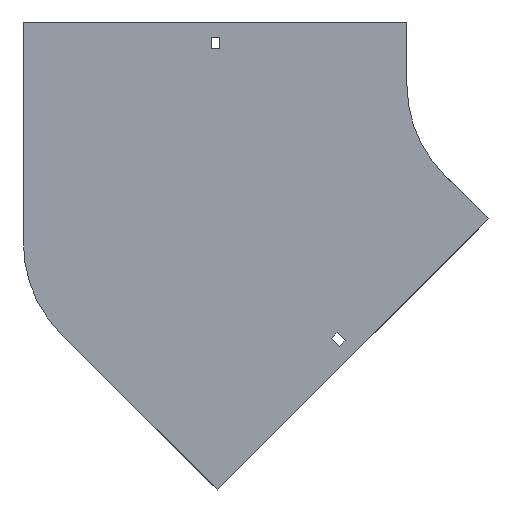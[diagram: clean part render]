
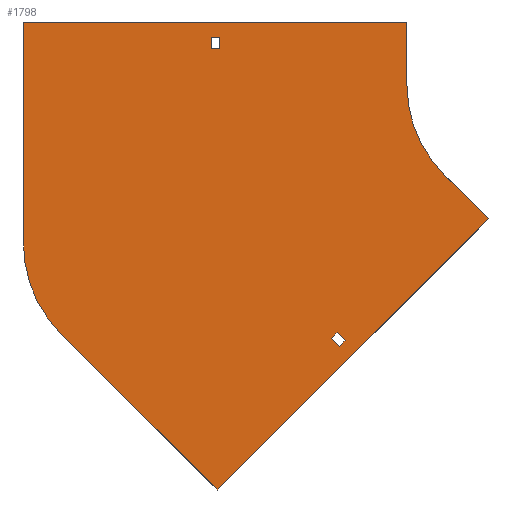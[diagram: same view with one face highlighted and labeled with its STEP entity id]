
A CAD part, front view. The second image highlights one B-rep face of the part: STEP entity #1798.
In plain terms, the highlighted planar face has unit normal (0, -1, 0).
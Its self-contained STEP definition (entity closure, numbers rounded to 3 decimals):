
#3 = CARTESIAN_POINT ( 'NONE',  ( -250.316, 0., -321.026 ) ) ;
#6 = ORIENTED_EDGE ( 'NONE', *, *, #439, .F. ) ;
#78 = AXIS2_PLACEMENT_3D ( 'NONE', #1677, #498, #1406 ) ;
#89 = CARTESIAN_POINT ( 'NONE',  ( 0., 0., 0. ) ) ;
#90 = CARTESIAN_POINT ( 'NONE',  ( -250.316, 0., -321.026 ) ) ;
#99 = DIRECTION ( 'NONE',  ( 0., 0., -1. ) ) ;
#121 = EDGE_CURVE ( 'NONE', #588, #1345, #339, .T. ) ;
#132 = DIRECTION ( 'NONE',  ( 1., 0., 0. ) ) ;
#136 = CIRCLE ( 'NONE', #78, 100. ) ;
#143 = VERTEX_POINT ( 'NONE', #1110 ) ;
#149 = DIRECTION ( 'NONE',  ( -0.707, 0., 0.707 ) ) ;
#151 = CARTESIAN_POINT ( 'NONE',  ( -100., 0., 0. ) ) ;
#153 = EDGE_CURVE ( 'NONE', #143, #409, #1403, .T. ) ;
#172 = CARTESIAN_POINT ( 'NONE',  ( -100., 0., 50. ) ) ;
#213 = ORIENTED_EDGE ( 'NONE', *, *, #367, .T. ) ;
#250 = ORIENTED_EDGE ( 'NONE', *, *, #1177, .F. ) ;
#275 = CARTESIAN_POINT ( 'NONE',  ( -248.75, 0., 29. ) ) ;
#287 = LINE ( 'NONE', #895, #680 ) ;
#288 = ORIENTED_EDGE ( 'NONE', *, *, #1626, .T. ) ;
#297 = CARTESIAN_POINT ( 'NONE',  ( -159.983, 0., -200.995 ) ) ;
#301 = EDGE_CURVE ( 'NONE', #1877, #1607, #1140, .T. ) ;
#316 = ORIENTED_EDGE ( 'NONE', *, *, #392, .F. ) ;
#339 = LINE ( 'NONE', #172, #920 ) ;
#344 = CARTESIAN_POINT ( 'NONE',  ( -255.25, 0., 29. ) ) ;
#363 = VECTOR ( 'NONE', #749, 1000. ) ;
#367 = EDGE_CURVE ( 'NONE', #404, #823, #874, .T. ) ;
#369 = DIRECTION ( 'NONE',  ( 0.707, 0., -0.707 ) ) ;
#372 = ORIENTED_EDGE ( 'NONE', *, *, #1546, .F. ) ;
#374 = CARTESIAN_POINT ( 'NONE',  ( 0., 0., 0. ) ) ;
#392 = EDGE_CURVE ( 'NONE', #1607, #588, #884, .T. ) ;
#404 = VERTEX_POINT ( 'NONE', #1933 ) ;
#409 = VERTEX_POINT ( 'NONE', #577 ) ;
#428 = CARTESIAN_POINT ( 'NONE',  ( -374.711, 0., -196.632 ) ) ;
#439 = EDGE_CURVE ( 'NONE', #1299, #1390, #1504, .T. ) ;
#454 = DIRECTION ( 'NONE',  ( 0., 0., -1. ) ) ;
#489 = VECTOR ( 'NONE', #1737, 1000. ) ;
#498 = DIRECTION ( 'NONE',  ( 0., 1., 0. ) ) ;
#502 = DIRECTION ( 'NONE',  ( -1., 0., 0. ) ) ;
#519 = CARTESIAN_POINT ( 'NONE',  ( -70.711, 0., -70.711 ) ) ;
#528 = LINE ( 'NONE', #1863, #745 ) ;
#531 = CARTESIAN_POINT ( 'NONE',  ( -404., 0., -125.921 ) ) ;
#533 = FACE_OUTER_BOUND ( 'NONE', #1876, .T. ) ;
#551 = FACE_BOUND ( 'NONE', #1568, .T. ) ;
#577 = CARTESIAN_POINT ( 'NONE',  ( -155.387, 0., -196.399 ) ) ;
#588 = VERTEX_POINT ( 'NONE', #1308 ) ;
#590 = CARTESIAN_POINT ( 'NONE',  ( -70.711, 0., -70.711 ) ) ;
#629 = DIRECTION ( 'NONE',  ( 0., -1., 0. ) ) ;
#633 = VERTEX_POINT ( 'NONE', #937 ) ;
#637 = DIRECTION ( 'NONE',  ( 0., 0., -1. ) ) ;
#654 = EDGE_CURVE ( 'NONE', #1337, #143, #528, .T. ) ;
#667 = DIRECTION ( 'NONE',  ( 0., 0., -1. ) ) ;
#680 = VECTOR ( 'NONE', #1493, 1000. ) ;
#721 = CARTESIAN_POINT ( 'NONE',  ( -159.983, 0., -200.995 ) ) ;
#740 = CARTESIAN_POINT ( 'NONE',  ( -255.25, 0., 38. ) ) ;
#745 = VECTOR ( 'NONE', #1421, 1000. ) ;
#749 = DIRECTION ( 'NONE',  ( 1., 0., 0. ) ) ;
#752 = VERTEX_POINT ( 'NONE', #1016 ) ;
#795 = EDGE_CURVE ( 'NONE', #866, #1299, #1447, .T. ) ;
#823 = VERTEX_POINT ( 'NONE', #1355 ) ;
#824 = VECTOR ( 'NONE', #454, 1000. ) ;
#826 = AXIS2_PLACEMENT_3D ( 'NONE', #374, #629, #667 ) ;
#829 = ORIENTED_EDGE ( 'NONE', *, *, #1437, .T. ) ;
#857 = ORIENTED_EDGE ( 'NONE', *, *, #795, .F. ) ;
#866 = VERTEX_POINT ( 'NONE', #1365 ) ;
#874 = LINE ( 'NONE', #740, #1688 ) ;
#884 = LINE ( 'NONE', #1801, #363 ) ;
#888 = ORIENTED_EDGE ( 'NONE', *, *, #1910, .T. ) ;
#895 = CARTESIAN_POINT ( 'NONE',  ( -255.25, 0., 29. ) ) ;
#905 = ORIENTED_EDGE ( 'NONE', *, *, #121, .F. ) ;
#920 = VECTOR ( 'NONE', #637, 1000. ) ;
#924 = CIRCLE ( 'NONE', #826, 100. ) ;
#937 = CARTESIAN_POINT ( 'NONE',  ( -248.75, 0., 29. ) ) ;
#1016 = CARTESIAN_POINT ( 'NONE',  ( -255.25, 0., 29. ) ) ;
#1058 = DIRECTION ( 'NONE',  ( 0.707, 0., -0.707 ) ) ;
#1075 = CARTESIAN_POINT ( 'NONE',  ( -404., 0., -125.921 ) ) ;
#1110 = CARTESIAN_POINT ( 'NONE',  ( -149.023, 0., -202.763 ) ) ;
#1126 = VECTOR ( 'NONE', #1058, 1000. ) ;
#1129 = VERTEX_POINT ( 'NONE', #297 ) ;
#1135 = LINE ( 'NONE', #344, #1203 ) ;
#1140 = LINE ( 'NONE', #531, #489 ) ;
#1158 = DIRECTION ( 'NONE',  ( -0.707, 0., -0.707 ) ) ;
#1177 = EDGE_CURVE ( 'NONE', #1345, #1386, #924, .T. ) ;
#1194 = LINE ( 'NONE', #1816, #1126 ) ;
#1203 = VECTOR ( 'NONE', #502, 1000. ) ;
#1238 = ORIENTED_EDGE ( 'NONE', *, *, #153, .F. ) ;
#1239 = VECTOR ( 'NONE', #369, 1000. ) ;
#1240 = ORIENTED_EDGE ( 'NONE', *, *, #301, .F. ) ;
#1273 = ORIENTED_EDGE ( 'NONE', *, *, #1418, .F. ) ;
#1299 = VERTEX_POINT ( 'NONE', #90 ) ;
#1308 = CARTESIAN_POINT ( 'NONE',  ( -100., 0., 50. ) ) ;
#1329 = CARTESIAN_POINT ( 'NONE',  ( -404., 0., 50. ) ) ;
#1336 = VECTOR ( 'NONE', #149, 1000. ) ;
#1337 = VERTEX_POINT ( 'NONE', #1484 ) ;
#1345 = VERTEX_POINT ( 'NONE', #151 ) ;
#1355 = CARTESIAN_POINT ( 'NONE',  ( -248.75, 0., 38. ) ) ;
#1365 = CARTESIAN_POINT ( 'NONE',  ( -35.355, 0., -106.066 ) ) ;
#1379 = CARTESIAN_POINT ( 'NONE',  ( -155.387, 0., -196.399 ) ) ;
#1386 = VERTEX_POINT ( 'NONE', #590 ) ;
#1390 = VERTEX_POINT ( 'NONE', #428 ) ;
#1403 = LINE ( 'NONE', #1379, #1488 ) ;
#1406 = DIRECTION ( 'NONE',  ( 0., 0., 1. ) ) ;
#1415 = DIRECTION ( 'NONE',  ( -0.707, 0., 0.707 ) ) ;
#1418 = EDGE_CURVE ( 'NONE', #1129, #1337, #1194, .T. ) ;
#1421 = DIRECTION ( 'NONE',  ( 0.707, 0., 0.707 ) ) ;
#1437 = EDGE_CURVE ( 'NONE', #752, #404, #287, .T. ) ;
#1447 = LINE ( 'NONE', #1924, #1951 ) ;
#1484 = CARTESIAN_POINT ( 'NONE',  ( -153.619, 0., -207.359 ) ) ;
#1488 = VECTOR ( 'NONE', #1415, 1000. ) ;
#1493 = DIRECTION ( 'NONE',  ( 0., 0., 1. ) ) ;
#1504 = LINE ( 'NONE', #3, #1336 ) ;
#1546 = EDGE_CURVE ( 'NONE', #1386, #866, #1745, .T. ) ;
#1568 = EDGE_LOOP ( 'NONE', ( #1666, #1273, #1761, #1238 ) ) ;
#1585 = PLANE ( 'NONE',  #1683 ) ;
#1605 = DIRECTION ( 'NONE',  ( 0., -1., 0. ) ) ;
#1607 = VERTEX_POINT ( 'NONE', #1329 ) ;
#1616 = FACE_BOUND ( 'NONE', #1696, .T. ) ;
#1626 = EDGE_CURVE ( 'NONE', #823, #633, #1814, .T. ) ;
#1649 = EDGE_CURVE ( 'NONE', #409, #1129, #1776, .T. ) ;
#1654 = EDGE_CURVE ( 'NONE', #1390, #1877, #136, .T. ) ;
#1666 = ORIENTED_EDGE ( 'NONE', *, *, #654, .F. ) ;
#1671 = ORIENTED_EDGE ( 'NONE', *, *, #1654, .F. ) ;
#1677 = CARTESIAN_POINT ( 'NONE',  ( -304., 0., -125.921 ) ) ;
#1683 = AXIS2_PLACEMENT_3D ( 'NONE', #89, #1605, #99 ) ;
#1688 = VECTOR ( 'NONE', #132, 1000. ) ;
#1696 = EDGE_LOOP ( 'NONE', ( #829, #213, #288, #888 ) ) ;
#1737 = DIRECTION ( 'NONE',  ( 0., 0., 1. ) ) ;
#1745 = LINE ( 'NONE', #519, #1239 ) ;
#1761 = ORIENTED_EDGE ( 'NONE', *, *, #1649, .F. ) ;
#1776 = LINE ( 'NONE', #721, #1843 ) ;
#1787 = DIRECTION ( 'NONE',  ( -0.707, 0., -0.707 ) ) ;
#1798 = ADVANCED_FACE ( 'NONE', ( #1616, #533, #551 ), #1585, .T. ) ;
#1801 = CARTESIAN_POINT ( 'NONE',  ( -404., 0., 50. ) ) ;
#1814 = LINE ( 'NONE', #275, #824 ) ;
#1816 = CARTESIAN_POINT ( 'NONE',  ( -159.983, 0., -200.995 ) ) ;
#1843 = VECTOR ( 'NONE', #1787, 1000. ) ;
#1863 = CARTESIAN_POINT ( 'NONE',  ( -153.619, 0., -207.359 ) ) ;
#1876 = EDGE_LOOP ( 'NONE', ( #316, #1240, #1671, #6, #857, #372, #250, #905 ) ) ;
#1877 = VERTEX_POINT ( 'NONE', #1075 ) ;
#1910 = EDGE_CURVE ( 'NONE', #633, #752, #1135, .T. ) ;
#1924 = CARTESIAN_POINT ( 'NONE',  ( -35.355, 0., -106.066 ) ) ;
#1933 = CARTESIAN_POINT ( 'NONE',  ( -255.25, 0., 38. ) ) ;
#1951 = VECTOR ( 'NONE', #1158, 1000. ) ;
